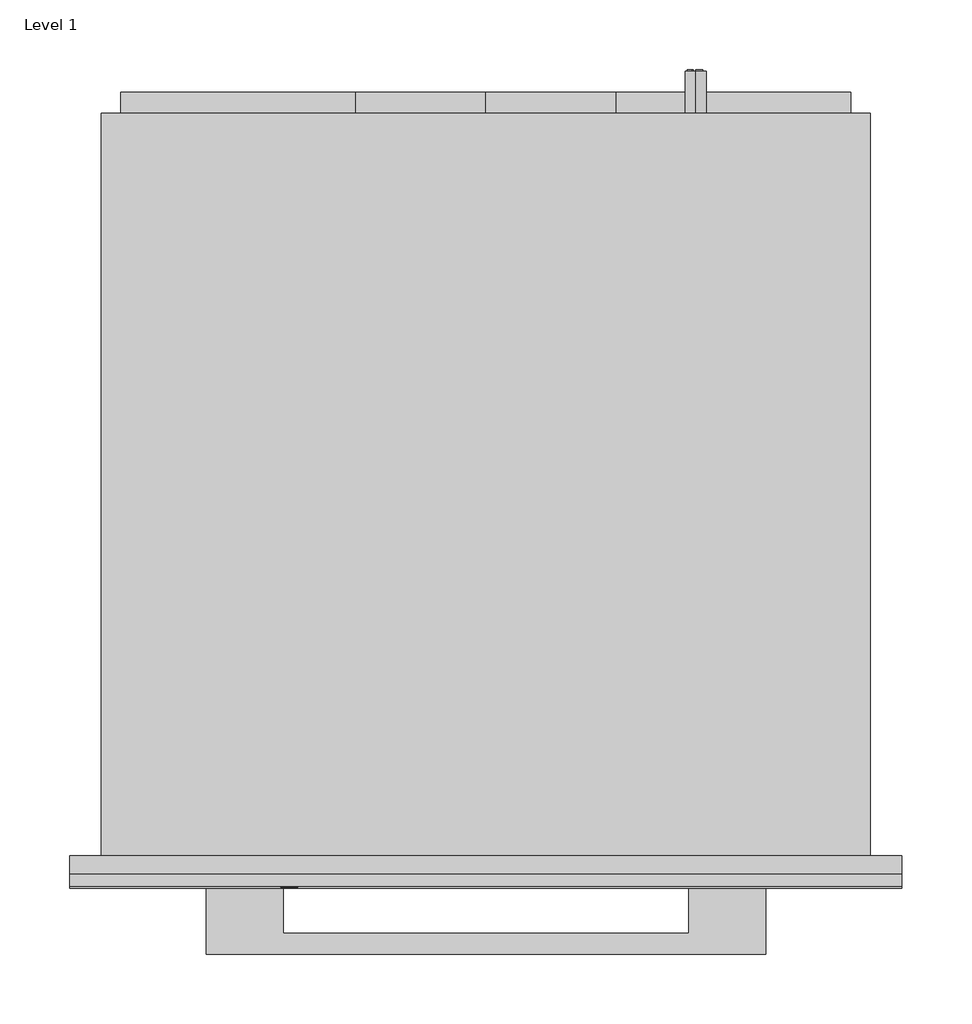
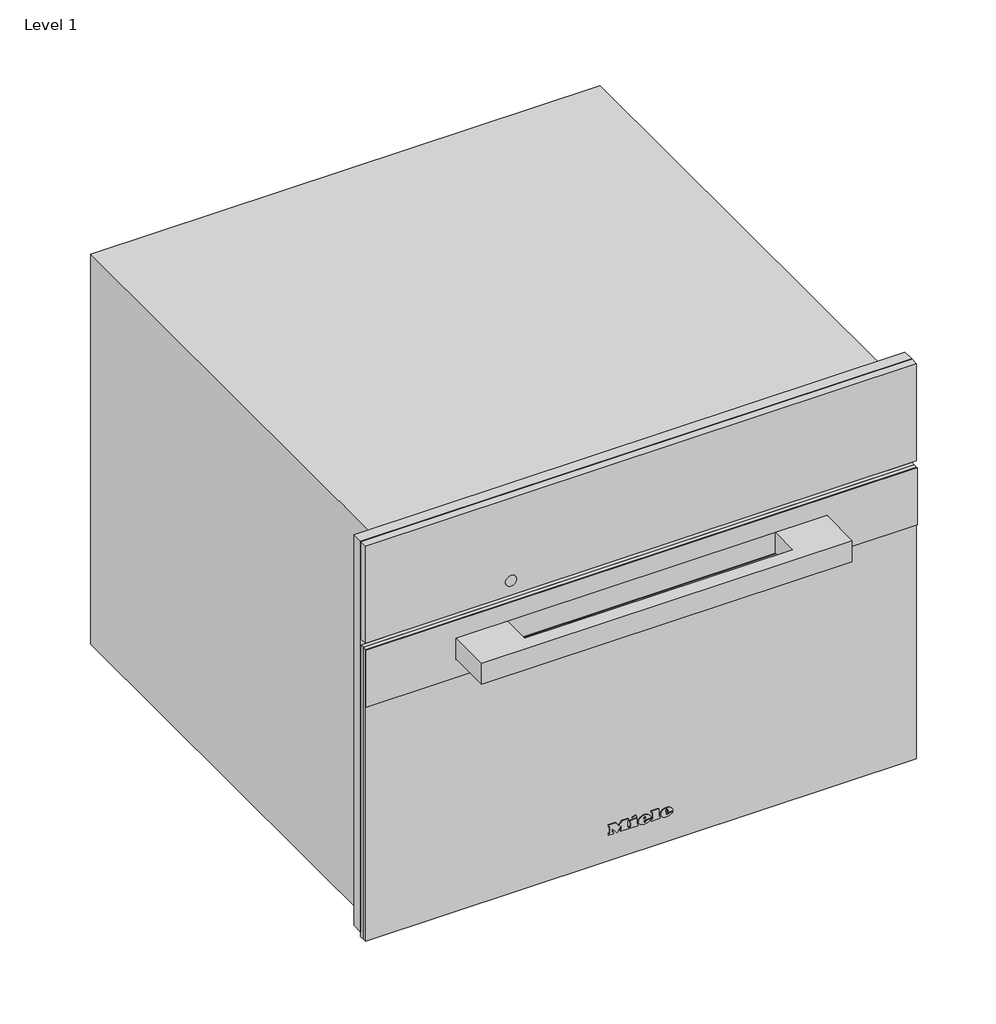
# One storey: 1 proxy.
"""IFC4 building model written with IfcOpenShell, lengths in millimetres."""

from ifc_helpers import new_model, si_unit, origin, place, context, project, spatial, transform, mapped, element, save
from components import specialty_equipment_9e288480

model = new_model("IFC4")

# Units and contexts
model_context = context("Model", 3, world=origin())
ifc_project = project(units=[si_unit("LENGTHUNIT", "METRE", prefix="MILLI")], contexts=[model_context])

# Site, building, storey
site = spatial("IfcSite", under=ifc_project)
building = spatial("IfcBuilding", under=site)
storey = spatial("IfcBuildingStorey", under=building, Name="Level 1", Elevation=0.0)

# Proxy
placement = place(None, origin())
specialty_equipment_shape = specialty_equipment_9e288480(model_context)
element("IfcBuildingElementProxy", 1, Name="11100450_F_DG7240_EDST-CLST : 23724040_F_11100450_DG7240_EDST-CLST", ObjectType="11100450_F_DG7240_EDST-CLST : 23724040_F_11100450_DG7240_EDST-CLST", at=placement, inside=storey, context=model_context, shape_type="MappedRepresentation", body=[
    mapped(specialty_equipment_shape, transform((0.0, 0.0, 0.0), x_axis=(1.0, 0.0, 0.0), y_axis=(0.0, 1.0, 0.0), z_axis=(0.0, 0.0, 1.0))),
])

save(model, "model.ifc")
